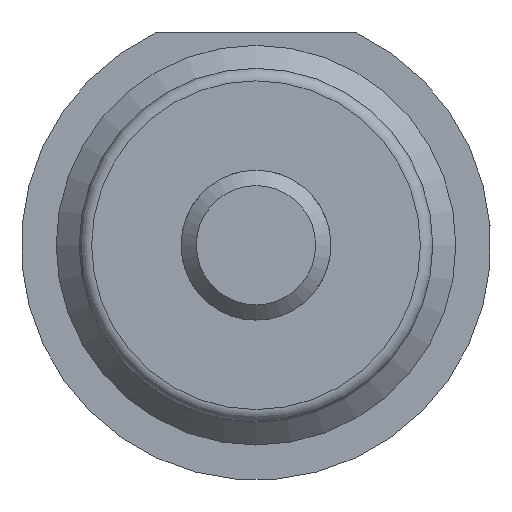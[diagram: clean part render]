
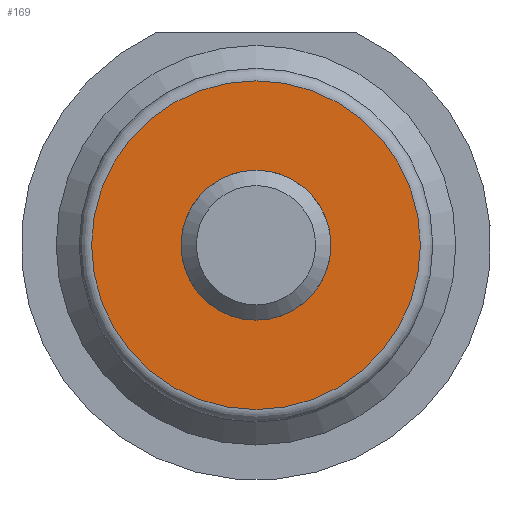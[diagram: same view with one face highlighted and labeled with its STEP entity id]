
A CAD part, left-side view. The second image highlights one B-rep face of the part: STEP entity #169.
In plain terms, the highlighted planar face has unit normal (-1, 0, 0).
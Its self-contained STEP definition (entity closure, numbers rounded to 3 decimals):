
#169 = ADVANCED_FACE( '', ( #236, #237 ), #238, .F. );
#236 = FACE_OUTER_BOUND( '', #418, .T. );
#237 = FACE_BOUND( '', #419, .T. );
#238 = PLANE( '', #420 );
#418 = EDGE_LOOP( '', ( #599 ) );
#419 = EDGE_LOOP( '', ( #600 ) );
#420 = AXIS2_PLACEMENT_3D( '', #601, #602, #603 );
#599 = ORIENTED_EDGE( '', *, *, #978, .F. );
#600 = ORIENTED_EDGE( '', *, *, #979, .T. );
#601 = CARTESIAN_POINT( '', ( -17., 0., 0. ) );
#602 = DIRECTION( '', ( 1., 0., 0. ) );
#603 = DIRECTION( '', ( 0., 0., -1. ) );
#978 = EDGE_CURVE( '', #1070, #1070, #1071, .T. );
#979 = EDGE_CURVE( '', #1072, #1072, #1073, .T. );
#1070 = VERTEX_POINT( '', #1238 );
#1071 = CIRCLE( '', #1239, 6.58 );
#1072 = VERTEX_POINT( '', #1240 );
#1073 = CIRCLE( '', #1241, 3. );
#1238 = CARTESIAN_POINT( '', ( -17., 0., -6.58 ) );
#1239 = AXIS2_PLACEMENT_3D( '', #1518, #1519, #1520 );
#1240 = CARTESIAN_POINT( '', ( -17., 0., -3. ) );
#1241 = AXIS2_PLACEMENT_3D( '', #1521, #1522, #1523 );
#1518 = CARTESIAN_POINT( '', ( -17., 0., 0. ) );
#1519 = DIRECTION( '', ( 1., 0., 0. ) );
#1520 = DIRECTION( '', ( 0., 0., -1. ) );
#1521 = CARTESIAN_POINT( '', ( -17., 0., 0. ) );
#1522 = DIRECTION( '', ( 1., 0., 0. ) );
#1523 = DIRECTION( '', ( 0., 0., -1. ) );
